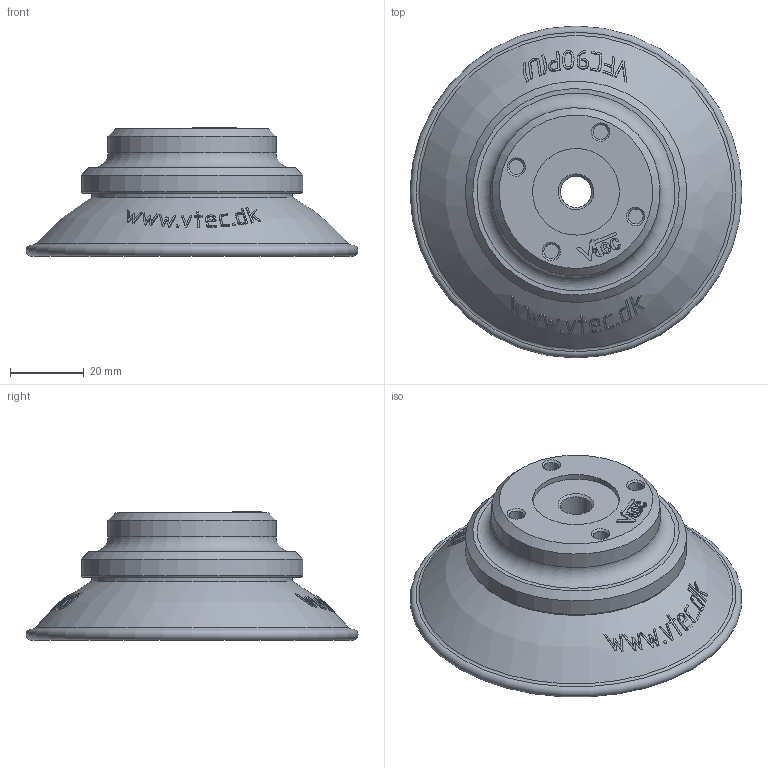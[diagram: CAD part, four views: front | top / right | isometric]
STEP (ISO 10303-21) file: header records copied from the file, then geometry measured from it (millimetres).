
FILE_DESCRIPTION( ( 'STEP AP203' ), '1' );
FILE_NAME( 'C:/Documents and Settings/Owner/官帕 拳搁/3D/Vacuum Pad/VFC series/VFC90-18F.stp', '2006-04-25T05:11:00', ( ' ' ), ( ' ' ), 'XStep 1.0', ' ', ' ' );
FILE_SCHEMA( ( 'CONFIG_CONTROL_DESIGN) ( )' ) );
Length unit declared in the file: metre
Products named in the file (3): Assem1; 1; 2
Bounding box: 90 x 90 x 34.8 mm (x, y, z)
Volume: 113091.3 mm3; surface area: 57381.5 mm2
Topology: 4 solids, 4 shells, 776 faces, 1890 edges, 1254 vertices
Faces by surface type: bspline 300, plane 180, cylinder 152, sphere 106, cone 20, torus 14, extrusion 4
Full cylindrical faces by diameter (mm): 0.791 x2, 4 x16, 6.7 x8, 8.5 x2, 15 x2, 23.5 x2, 45.6 x2, 54.5 x2, 55 x2, 60 x2
Entity records: 20374 total; most frequent: CARTESIAN_POINT 12239, ORIENTED_EDGE 1778, DIRECTION 1258, EDGE_CURVE 889, VERTEX_POINT 615, EDGE_LOOP 510, AXIS2_PLACEMENT_3D 488, FACE_OUTER_BOUND 421
